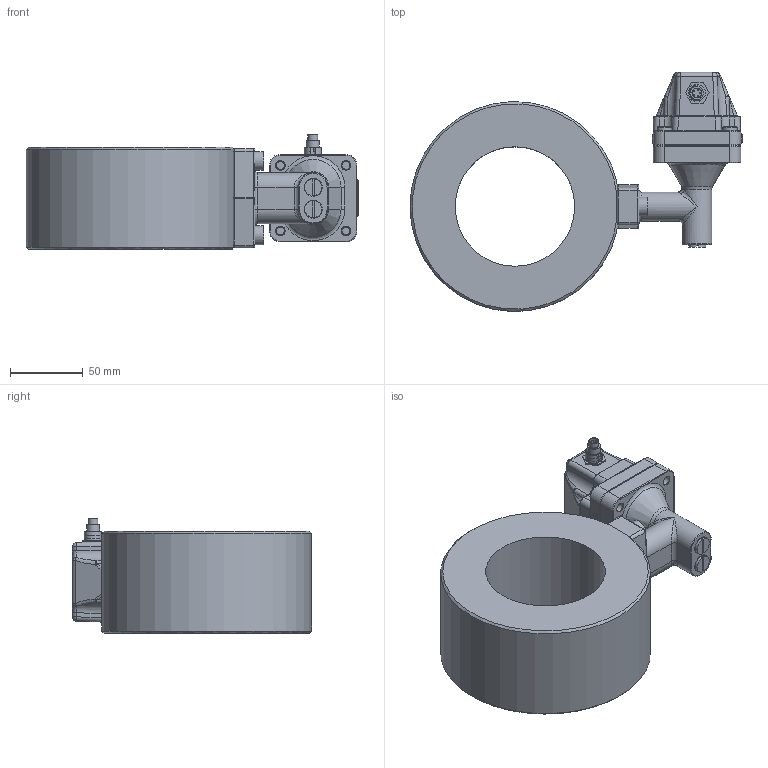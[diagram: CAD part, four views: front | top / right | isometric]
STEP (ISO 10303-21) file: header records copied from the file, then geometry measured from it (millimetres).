
FILE_DESCRIPTION(/* description */ ('Alibre Inc.'),/* implementation_level */ '2;1');
FILE_NAME(/* name */ 'export0',/* time_stamp */ '2012-11-14T15:43:43+01:00',/* author */ (''),/* organization */ (''),/* preprocessor_version */ 'ST-DEVELOPER v14',/* originating_system */ 'Alibre',/* authorisation */ '');
FILE_SCHEMA (('CONFIG_CONTROL_DESIGN'));
Length unit declared in the file: centimetre
Products named in the file (9): ID_1; ID_2; ID_3; ID_4; ID_5; ID_6
Bounding box: 227.75 x 163.96 x 78.5 mm (x, y, z)
Volume: 937491.8 mm3; surface area: 135314 mm2
Topology: 13 solids, 14 shells, 843 faces, 1841 edges, 1062 vertices
Faces by surface type: plane 268, cylinder 261, bspline 132, cone 92, torus 52, sphere 38
Full cylindrical faces by diameter (mm): 0.75 x5, 3.198 x4, 6 x16, 6.2 x1, 6.4 x4, 6.7 x1, 8 x4, 8.5 x2, 8.7 x2, 8.9 x1, 9.6 x4, 10 x4, 11 x4, 11.75 x2, 12 x2, 13 x2, 14 x2, 17.2 x2, 21.1 x2, 32 x1, 47 x1, 82 x1
Entity records: 45192 total; most frequent: CARTESIAN_POINT 29430, ORIENTED_EDGE 2982, DIRECTION 2909, EDGE_CURVE 1491, AXIS2_PLACEMENT_3D 1307, VERTEX_POINT 913, EDGE_LOOP 892, FACE_BOUND 892
